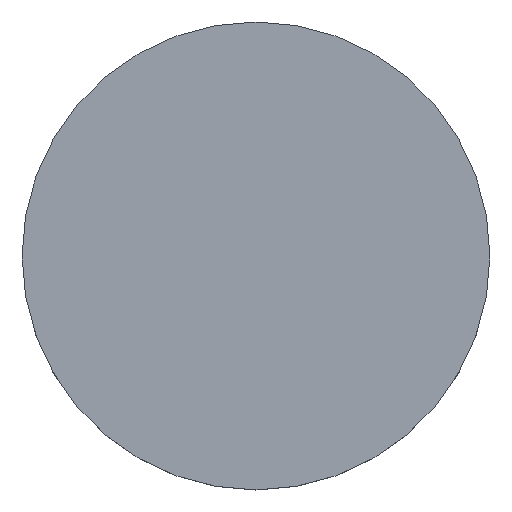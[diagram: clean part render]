
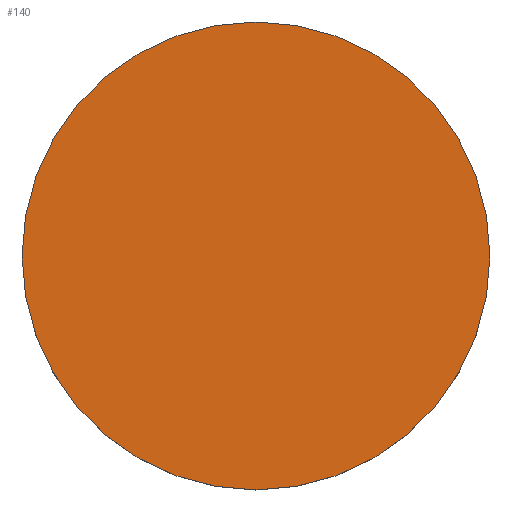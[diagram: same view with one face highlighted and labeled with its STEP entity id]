
A CAD part, top view. The second image highlights one B-rep face of the part: STEP entity #140.
In plain terms, the highlighted planar face has unit normal (0, 0, 1).
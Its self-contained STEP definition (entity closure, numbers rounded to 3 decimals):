
#24 = VERTEX_POINT('',#25);
#25 = CARTESIAN_POINT('',(168.5,96.,42.6));
#32 = CYLINDRICAL_SURFACE('',#33,7.5);
#33 = AXIS2_PLACEMENT_3D('',#34,#35,#36);
#34 = CARTESIAN_POINT('',(161.,96.,40.6));
#35 = DIRECTION('',(-0.,-0.,-1.));
#36 = DIRECTION('',(1.,0.,0.));
#51 = EDGE_CURVE('',#24,#24,#52,.T.);
#52 = SURFACE_CURVE('',#53,(#58,#65),.PCURVE_S1.);
#53 = CIRCLE('',#54,7.5);
#54 = AXIS2_PLACEMENT_3D('',#55,#56,#57);
#55 = CARTESIAN_POINT('',(161.,96.,42.6));
#56 = DIRECTION('',(0.,0.,1.));
#57 = DIRECTION('',(1.,0.,0.));
#58 = PCURVE('',#32,#59);
#59 = DEFINITIONAL_REPRESENTATION('',(#60),#64);
#60 = LINE('',#61,#62);
#61 = CARTESIAN_POINT('',(-0.,-2.));
#62 = VECTOR('',#63,1.);
#63 = DIRECTION('',(-1.,0.));
#64 = ( GEOMETRIC_REPRESENTATION_CONTEXT(2) 
PARAMETRIC_REPRESENTATION_CONTEXT() REPRESENTATION_CONTEXT('2D SPACE',''
  ) );
#65 = PCURVE('',#66,#71);
#66 = PLANE('',#67);
#67 = AXIS2_PLACEMENT_3D('',#68,#69,#70);
#68 = CARTESIAN_POINT('',(161.,96.,42.6));
#69 = DIRECTION('',(0.,0.,1.));
#70 = DIRECTION('',(1.,0.,-0.));
#71 = DEFINITIONAL_REPRESENTATION('',(#72),#76);
#72 = CIRCLE('',#73,7.5);
#73 = AXIS2_PLACEMENT_2D('',#74,#75);
#74 = CARTESIAN_POINT('',(0.,0.));
#75 = DIRECTION('',(1.,0.));
#76 = ( GEOMETRIC_REPRESENTATION_CONTEXT(2) 
PARAMETRIC_REPRESENTATION_CONTEXT() REPRESENTATION_CONTEXT('2D SPACE',''
  ) );
#140 = ADVANCED_FACE('',(#141),#66,.T.);
#141 = FACE_BOUND('',#142,.T.);
#142 = EDGE_LOOP('',(#143));
#143 = ORIENTED_EDGE('',*,*,#51,.T.);
